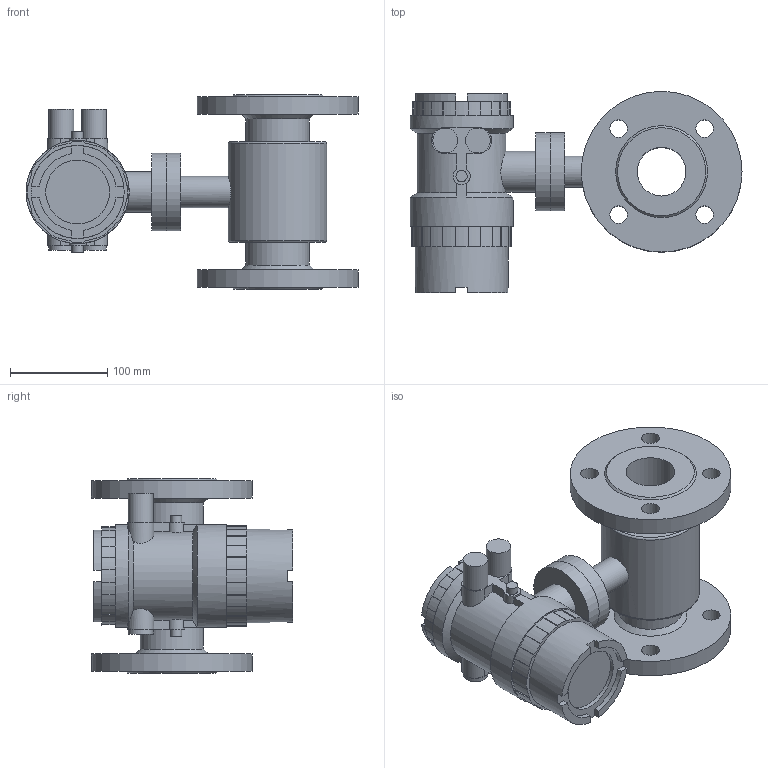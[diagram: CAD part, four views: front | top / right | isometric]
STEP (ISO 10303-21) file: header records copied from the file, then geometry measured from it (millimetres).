
FILE_DESCRIPTION( (''), '2;1');
FILE_NAME( 'QMKC_DN50.step', '2025-07-01T15:18:22+08:00', (''), (''), '', '', '');
FILE_SCHEMA (('AUTOMOTIVE_DESIGN { 1 0 10303 214 3 1 1 1 }'));
Length unit declared in the file: millimetre
Products named in the file (1): QMKC DN50
Bounding box: 340.75 x 206.5 x 200 mm (x, y, z)
Volume: 3149847.3 mm3; surface area: 312129.1 mm2
Topology: 2 solids, 2 shells, 218 faces, 582 edges, 391 vertices
Faces by surface type: plane 112, cylinder 96, cone 8, torus 2
Full cylindrical faces by diameter (mm): 11.6 x2, 18 x8, 25.5 x4, 32 x1, 42 x1, 50 x1, 65 x2, 65.5 x1, 80 x2, 95.5 x1, 101 x1, 105.9 x2, 165 x2
Entity records: 6721 total; most frequent: CARTESIAN_POINT 1289, DIRECTION 1150, ORIENTED_EDGE 1058, EDGE_CURVE 529, AXIS2_PLACEMENT_3D 426, VERTEX_POINT 373, LINE 298, VECTOR 298
